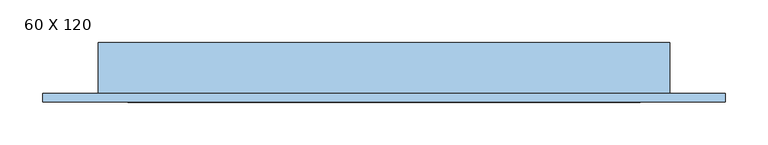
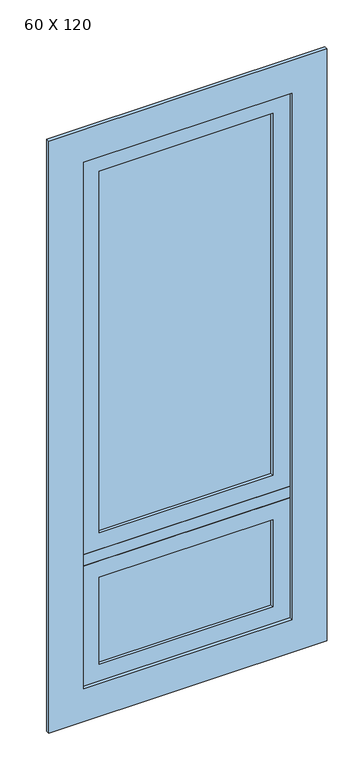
"""IFC4 building model written with IfcOpenShell, lengths in millimetres: window geometry, JANELA COM ESQUADRIA MAXIM-AR - 1 FOLHA + PEITORIL COM ESQUADRIA FIXA - 1 FOLHA : 60 X 120."""

from ifc_helpers import new_model, si_unit, frame, origin, place, context, project, spatial, polyline, outline, extrude, source, transform, mapped, element, save


def window_60_x_120_94a805db(model_context):
    return source(origin(), model_context, "Body", "SweptSolid", [
        extrude(outline(polyline([(-120.5964491, -60.3758395), (379.4035509, -60.3758395), (379.4035509, -66.3758395), (-120.5964491, -66.3758395), (-120.5964491, -60.3758395)])), frame((0.0, 0.0, 650.0), z_axis=(0.0, 0.0, 1.0), x_axis=(1.0, 0.0, 0.0)), (0.0, 0.0, 1.0), 265.0),
        extrude(outline(polyline([(965.0, -170.5964491), (600.0, -170.5964491), (600.0, 429.4035509), (965.0, 429.4035509), (965.0, -170.5964491)]), holes=[polyline([(915.0, -120.5964491), (915.0, 379.4035509), (650.0, 379.4035509), (650.0, -120.5964491), (915.0, -120.5964491)])]), frame((0.0, -75.8758395, 0.0), z_axis=(0.0, 1.0, 0.0), x_axis=(0.0, 0.0, 1.0)), (0.0, 0.0, 1.0), 25.0),
        extrude(outline(polyline([(-120.5964491, -60.3758395), (379.4035509, -60.3758395), (379.4035509, -66.3758395), (-120.5964491, -66.3758395), (-120.5964491, -60.3758395)])), frame((0.0, 0.0, 1050.0), z_axis=(0.0, 0.0, 1.0), x_axis=(1.0, 0.0, 0.0)), (0.0, 0.0, 1.0), 1100.0),
        extrude(outline(polyline([(2200.0, -170.5964491), (1000.0, -170.5964491), (1000.0, 429.4035509), (2200.0, 429.4035509), (2200.0, -170.5964491)]), holes=[polyline([(2150.0, -120.5964491), (2150.0, 379.4035509), (1050.0, 379.4035509), (1050.0, -120.5964491), (2150.0, -120.5964491)])]), frame((0.0, -75.8758395, 0.0), z_axis=(0.0, 1.0, 0.0), x_axis=(0.0, 0.0, 1.0)), (0.0, 0.0, 1.0), 25.0),
        extrude(outline(polyline([(500.0, -270.5964491), (500.0, 529.4035509), (2300.0, 529.4035509), (2300.0, -270.5964491), (500.0, -270.5964491)]), holes=[polyline([(2200.0, -170.5964491), (2200.0, 429.4035509), (600.0, 429.4035509), (600.0, -170.5964491), (2200.0, -170.5964491)])]), frame((0.0, -85.8758395, 0.0), z_axis=(0.0, 1.0, 0.0), x_axis=(0.0, 0.0, 1.0)), (0.0, 0.0, 1.0), 10.0),
        extrude(outline(polyline([(2200.0, 464.4035509), (2200.0, 429.4035509), (1000.0, 429.4035509), (1000.0, -170.5964491), (2200.0, -170.5964491), (2200.0, -205.5964491), (600.0, -205.5964491), (600.0, -170.5964491), (965.0, -170.5964491), (965.0, 429.4035509), (600.0, 429.4035509), (600.0, 464.4035509), (2200.0, 464.4035509)])), frame((0.0, -75.8758395, 0.0), z_axis=(0.0, 1.0, 0.0), x_axis=(0.0, 0.0, 1.0)), (0.0, 0.0, 1.0), 60.0),
        extrude(outline(polyline([(-205.5964491, -15.8758395), (464.4035509, -15.8758395), (464.4035509, -75.8758395), (-205.5964491, -75.8758395), (-205.5964491, -15.8758395)])), frame((0.0, 0.0, 565.0), z_axis=(0.0, 0.0, 1.0), x_axis=(1.0, 0.0, 0.0)), (0.0, 0.0, 1.0), 35.0),
        extrude(outline(polyline([(-205.5964491, -15.8758395), (464.4035509, -15.8758395), (464.4035509, -75.8758395), (-205.5964491, -75.8758395), (-205.5964491, -15.8758395)])), frame((0.0, 0.0, 2200.0), z_axis=(0.0, 0.0, 1.0), x_axis=(1.0, 0.0, 0.0)), (0.0, 0.0, 1.0), 35.0),
    ])


if __name__ == "__main__":
    model = new_model("IFC4")
    model_context = context("Model", 3, world=origin())
    ifc_project = project(units=[si_unit("LENGTHUNIT", "METRE", prefix="MILLI")], contexts=[model_context])
    site = spatial("IfcSite", under=ifc_project)
    building = spatial("IfcBuilding", under=site)
    placement = place(None, origin())
    window_60_x_120_shape = window_60_x_120_94a805db(model_context)
    element("IfcWindow", 1, ObjectType="JANELA COM ESQUADRIA MAXIM-AR - 1 FOLHA + PEITORIL COM ESQUADRIA FIXA - 1 FOLHA : 60 X 120", at=placement, inside=building, context=model_context, shape_type="MappedRepresentation", body=[
        mapped(window_60_x_120_shape, transform((0.0, 0.0, 0.0), x_axis=(1.0, 0.0, 0.0), y_axis=(0.0, 1.0, 0.0), z_axis=(0.0, 0.0, 1.0))),
    ])
    save(model, "model.ifc")
